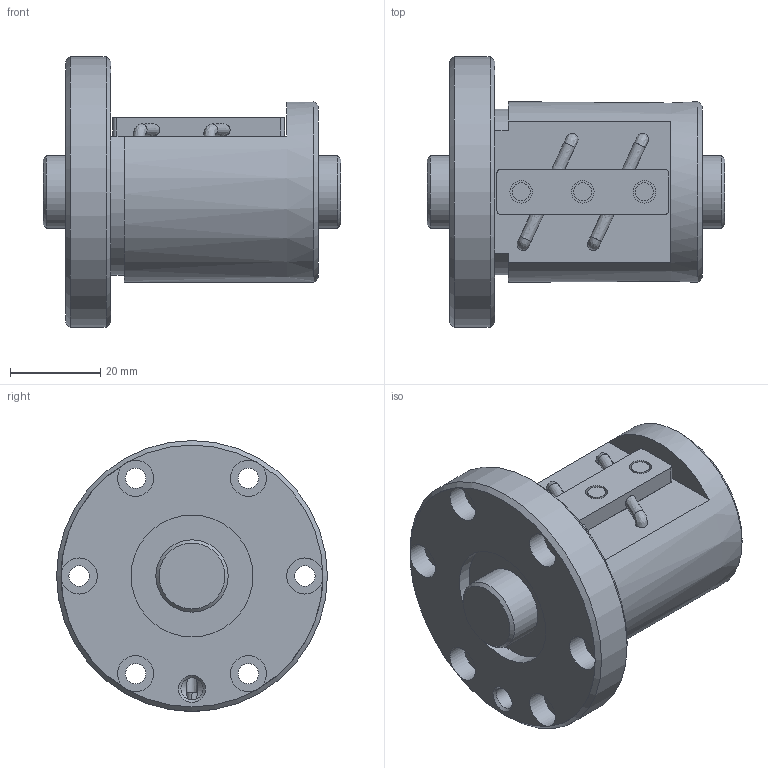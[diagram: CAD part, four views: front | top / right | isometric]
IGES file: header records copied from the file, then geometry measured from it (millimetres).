
Start section: Data from Parasolid IGES Translator 26.0.171, Copyright(c) 2006 Siemens PLM Software. All Rights Reserved.
Global section: file name: BNF1605V-5RRG1+66LC0_000_rev.igs; native system: By Siemens PLM Incorporated; preprocessor: XPlus GENERIC/IGES 26.0.171; author: Noname; organization: Noname; date: 20240806.072738; units: millimetre
Bounding box: 66 x 60 x 60 mm (x, y, z)
Surface area: 21662.3 mm2 (no closed solid volume)
Topology: 0 solids, 0 shells, 80 faces, 408 edges, 361 vertices
Faces by surface type: revolution 51, extrusion 29
